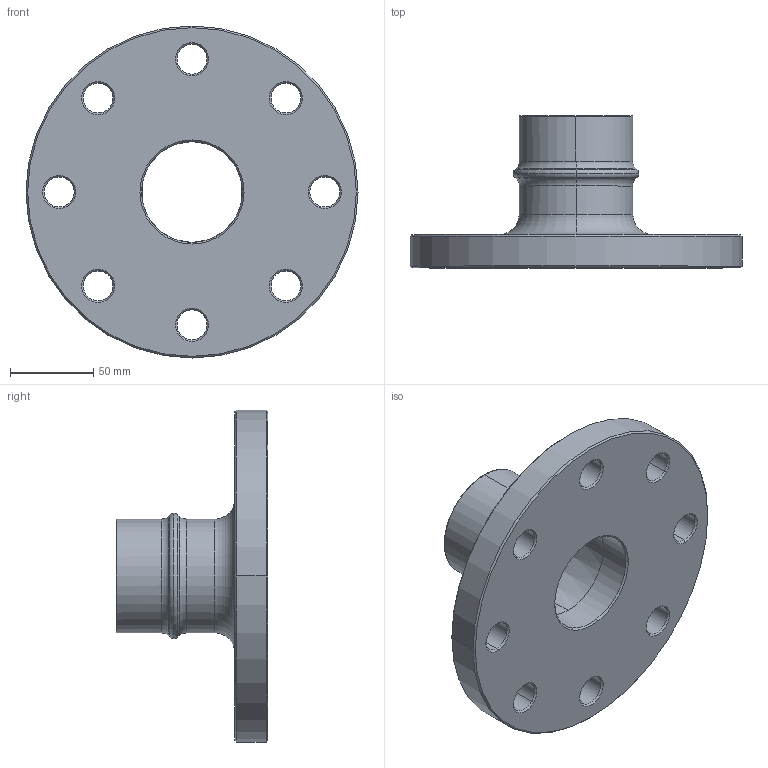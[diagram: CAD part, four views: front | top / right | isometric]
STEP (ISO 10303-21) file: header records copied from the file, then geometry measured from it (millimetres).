
FILE_DESCRIPTION((''),'2;1');
FILE_NAME('AU15767100','2019-12-13T',('Administrator'),(''),'PRO/ENGINEER BY PARAMETRIC TECHNOLOGY CORPORATION, 2009360','PRO/ENGINEER BY PARAMETRIC TECHNOLOGY CORPORATION, 2009360','');
FILE_SCHEMA(('AUTOMOTIVE_DESIGN_CC2 { 1 2 10303 214 -1 1 5 2 }'));
Length unit declared in the file: millimetre
Products named in the file (1): AU15767100
Bounding box: 200 x 91.53 x 200 mm (x, y, z)
Volume: 591642.3 mm3; surface area: 105631.6 mm2
Topology: 1 solids, 1 shells, 85 faces, 196 edges, 114 vertices
Faces by surface type: cone 44, cylinder 24, torus 14, plane 3
Entity records: 3073 total; most frequent: DIRECTION 494, CARTESIAN_POINT 395, ORIENTED_EDGE 392, AXIS2_PLACEMENT_3D 213, PRESENTATION_STYLE_ASSIGNMENT 197, STYLED_ITEM 197, CURVE_STYLE 196, EDGE_CURVE 196
